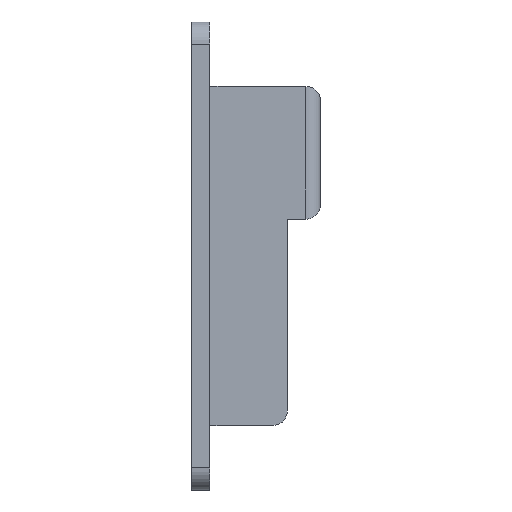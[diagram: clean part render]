
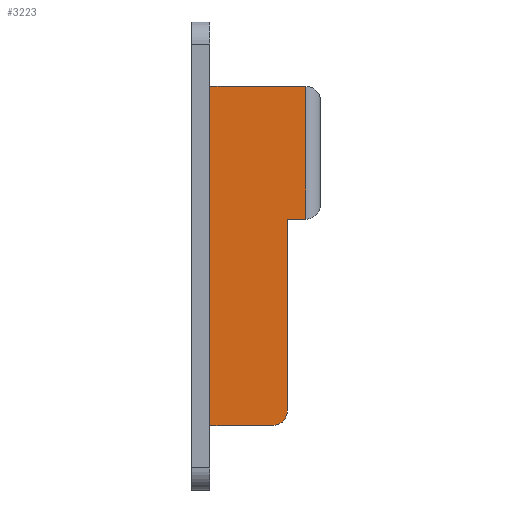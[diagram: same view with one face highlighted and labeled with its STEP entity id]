
A CAD part, front view. The second image highlights one B-rep face of the part: STEP entity #3223.
In plain terms, the highlighted planar face has unit normal (0, -1, 0).
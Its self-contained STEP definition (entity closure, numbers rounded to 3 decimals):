
#2662=CARTESIAN_POINT('',(6.75,-48.,23.));
#2663=VERTEX_POINT('',#2662);
#3068=CARTESIAN_POINT('',(6.75,-48.,5.));
#3069=VERTEX_POINT('',#3068);
#3070=CARTESIAN_POINT('',(6.75,-48.,5.));
#3071=DIRECTION('',(0.0,0.0,1.0));
#3072=VECTOR('',#3071,18.0);
#3073=LINE('',#3070,#3072);
#3074=EDGE_CURVE('',#3069,#2663,#3073,.T.);
#3101=CARTESIAN_POINT('',(-6.25,-48.,23.));
#3102=VERTEX_POINT('',#3101);
#3109=CARTESIAN_POINT('',(6.75,-48.,23.));
#3110=DIRECTION('',(-1.0,0.0,0.0));
#3111=VECTOR('',#3110,13.);
#3112=LINE('',#3109,#3111);
#3113=EDGE_CURVE('',#2663,#3102,#3112,.T.);
#3175=CARTESIAN_POINT('',(8.75,-48.,0.));
#3176=DIRECTION('',(0.0,-1.0,0.0));
#3177=DIRECTION('',(0.0,0.0,-1.0));
#3178=AXIS2_PLACEMENT_3D('',#3175,#3176,#3177);
#3179=PLANE('',#3178);
#3180=ORIENTED_EDGE('',*,*,#3074,.T.);
#3181=ORIENTED_EDGE('',*,*,#3113,.T.);
#3182=CARTESIAN_POINT('',(-6.25,-48.,-23.));
#3183=VERTEX_POINT('',#3182);
#3184=CARTESIAN_POINT('',(-6.25,-48.,-23.));
#3185=DIRECTION('',(0.0,0.0,1.0));
#3186=VECTOR('',#3185,46.0);
#3187=LINE('',#3184,#3186);
#3188=EDGE_CURVE('',#3183,#3102,#3187,.T.);
#3189=ORIENTED_EDGE('',*,*,#3188,.F.);
#3190=CARTESIAN_POINT('',(2.25,-48.,-23.));
#3191=VERTEX_POINT('',#3190);
#3192=CARTESIAN_POINT('',(2.25,-48.,-23.));
#3193=DIRECTION('',(-1.0,0.0,0.0));
#3194=VECTOR('',#3193,8.5);
#3195=LINE('',#3192,#3194);
#3196=EDGE_CURVE('',#3191,#3183,#3195,.T.);
#3197=ORIENTED_EDGE('',*,*,#3196,.F.);
#3198=CARTESIAN_POINT('',(4.25,-48.,-21.));
#3199=VERTEX_POINT('',#3198);
#3200=CARTESIAN_POINT('',(2.25,-48.,-21.));
#3201=DIRECTION('',(0.0,-1.0,0.0));
#3202=DIRECTION('',(0.0,0.0,-1.0));
#3203=AXIS2_PLACEMENT_3D('',#3200,#3201,#3202);
#3204=CIRCLE('',#3203,2.0);
#3205=EDGE_CURVE('',#3191,#3199,#3204,.T.);
#3206=ORIENTED_EDGE('',*,*,#3205,.T.);
#3207=CARTESIAN_POINT('',(4.25,-48.,5.));
#3208=VERTEX_POINT('',#3207);
#3209=CARTESIAN_POINT('',(4.25,-48.,5.));
#3210=DIRECTION('',(0.0,0.0,-1.0));
#3211=VECTOR('',#3210,26.0);
#3212=LINE('',#3209,#3211);
#3213=EDGE_CURVE('',#3208,#3199,#3212,.T.);
#3214=ORIENTED_EDGE('',*,*,#3213,.F.);
#3215=CARTESIAN_POINT('',(4.25,-48.,5.));
#3216=DIRECTION('',(1.0,0.0,0.0));
#3217=VECTOR('',#3216,2.5);
#3218=LINE('',#3215,#3217);
#3219=EDGE_CURVE('',#3208,#3069,#3218,.T.);
#3220=ORIENTED_EDGE('',*,*,#3219,.T.);
#3221=EDGE_LOOP('',(#3180,#3181,#3189,#3197,#3206,#3214,#3220));
#3222=FACE_OUTER_BOUND('',#3221,.T.);
#3223=ADVANCED_FACE('',(#3222),#3179,.T.);
